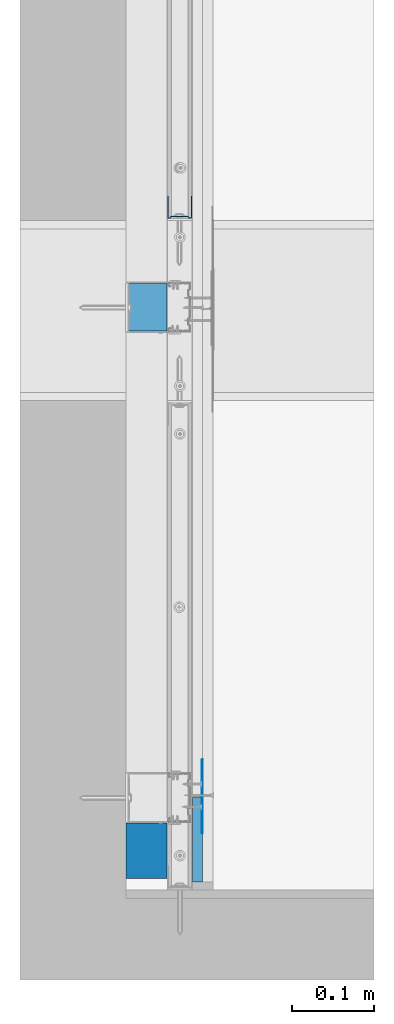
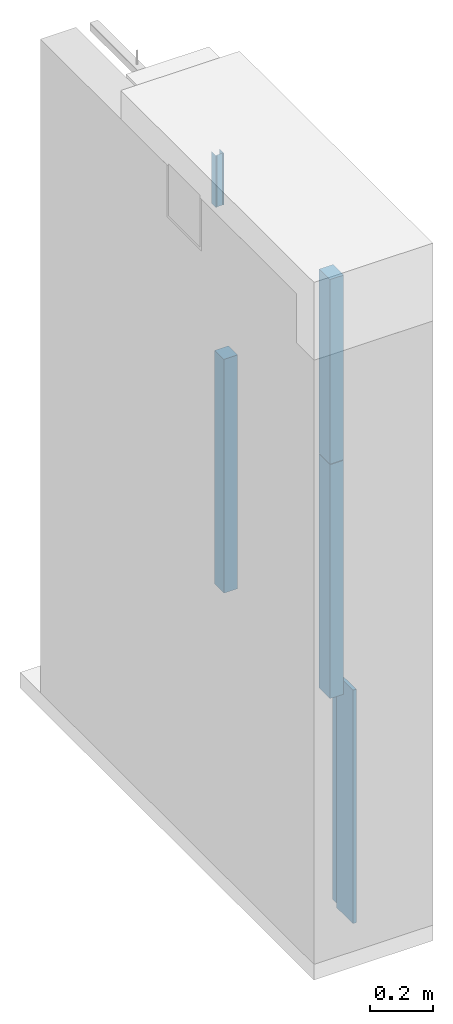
# One storey, part 7 of 67: 6 walls.
"""IFC2X3 building model written with IfcOpenShell, lengths in millimetres."""

import ifcopenshell
import ifcopenshell.guid

model = None  # the IFC model being written
_history = None  # IfcOwnerHistory: only IFC2X3 demands one
_inside = {}  # id of a spatial element -> (the spatial element, [elements in it])
_under = {}  # id of a project, library or spatial element -> (it, [spatial elements below it])
_declared = {}  # id of a project -> (the project, [libraries it declares])
_typed = {}  # id of a type object -> (the type object, [elements of that type])
_made_of = {}  # id of a material, layer set ... -> (it, [elements and type objects made of it])


def new_model(schema):
    """Start an empty IFC model of exactly this schema.

    Asked for "IFC4X3", IfcOpenShell would pick the latest addendum, in which some entities
    have other attributes; the version numbers below select the first issue.
    IFC2X3 requires an IfcOwnerHistory on every rooted entity: one is made here for all.
    """
    global model, _history
    if schema == "IFC4X3":
        model = ifcopenshell.file(schema_version=(4, 3, 0, 0))
    else:
        model = ifcopenshell.file(schema=schema)
    _inside.clear()
    _under.clear()
    _declared.clear()
    _typed.clear()
    _made_of.clear()
    _history = None
    if model.schema == "IFC2X3":
        org = make("IfcOrganization", Name="unknown")
        user = make(
            "IfcPersonAndOrganization",
            ThePerson=make("IfcPerson", FamilyName="unknown"),
            TheOrganization=org,
        )
        app = make(
            "IfcApplication",
            ApplicationDeveloper=org,
            Version="unknown",
            ApplicationFullName="unknown",
            ApplicationIdentifier="unknown",
        )
        _history = make(
            "IfcOwnerHistory",
            OwningUser=user,
            OwningApplication=app,
            ChangeAction="ADDED",
            CreationDate=0,
        )
    return model


def make(cls, **values):
    """One entity of the class cls with the attributes given. An attribute that is None is left unset."""
    return model.create_entity(
        cls, **{name: value for name, value in values.items() if value is not None}
    )


def rooted(cls, **values):
    """An entity with a GlobalId (a new one), such as an element, a storey or a relation."""
    return make(cls, GlobalId=ifcopenshell.guid.new(), OwnerHistory=_history, **values)


def si_unit(unit_type, name, prefix=None):
    """IfcSIUnit, for example si_unit("LENGTHUNIT", "METRE", prefix="MILLI")."""
    return make("IfcSIUnit", UnitType=unit_type, Prefix=prefix, Name=name)


def assignment(units):
    """IfcUnitAssignment: the units of a project."""
    return None if units is None else make("IfcUnitAssignment", Units=units)


def point(xyz):
    """IfcCartesianPoint."""
    return None if xyz is None else make("IfcCartesianPoint", Coordinates=xyz)


def direction(xyz):
    """IfcDirection."""
    return None if xyz is None else make("IfcDirection", DirectionRatios=xyz)


def frame(location, z_axis=None, x_axis=None):
    """IfcAxis2Placement3D, a coordinate frame: its origin and axes. An axis left out is left unset."""
    return make(
        "IfcAxis2Placement3D",
        Location=point(location),
        Axis=direction(z_axis),
        RefDirection=direction(x_axis),
    )


def origin_with_axes():
    """The frame at (0, 0, 0) with the z axis (0, 0, 1) and the x axis (1, 0, 0) written out."""
    return frame((0.0, 0.0, 0.0), z_axis=(0.0, 0.0, 1.0), x_axis=(1.0, 0.0, 0.0))


def place(relative_to, where):
    """IfcLocalPlacement: puts the frame where relative to a parent placement (None: the world)."""
    return make(
        "IfcLocalPlacement", PlacementRelTo=relative_to, RelativePlacement=where
    )


def context(
    kind, dimensions, precision=None, world=None, true_north=None, identifier=None
):
    """IfcGeometricRepresentationContext, for example the 3D "Model" context."""
    return make(
        "IfcGeometricRepresentationContext",
        ContextIdentifier=identifier,
        ContextType=kind,
        CoordinateSpaceDimension=dimensions,
        Precision=precision,
        WorldCoordinateSystem=world,
        TrueNorth=true_north,
    )


def subcontext(parent, identifier, kind, view, scale=None):
    """IfcGeometricRepresentationSubContext, for example "Body" below "Model"."""
    return make(
        "IfcGeometricRepresentationSubContext",
        ContextIdentifier=identifier,
        ContextType=kind,
        ParentContext=parent,
        TargetScale=scale,
        TargetView=view,
    )


def project(units=None, contexts=None):
    """IfcProject with its units and contexts."""
    return rooted(
        "IfcProject",
        Name="project",
        RepresentationContexts=contexts,
        UnitsInContext=assignment(units),
    )


def spatial(cls, under=None, at=None, **own):
    """A site, building, storey or space (cls), placed at a placement, below another one or the project."""
    s = rooted(cls, ObjectPlacement=at, **own)
    if under is not None:
        _under.setdefault(under.id(), (under, []))[1].append(s)
    return s


def faces_of(points, faces, orient=None, outer=None):
    """IfcFace entities. A face is a list of loops; a loop is a list of indices into points, from 0.

    orient and outer hold one flag for each loop. By default every Orientation is true, the
    first loop of a face is its IfcFaceOuterBound and the others are IfcFaceBound.
    """
    made = []
    for i, loops in enumerate(faces):
        bounds = []
        for j, loop in enumerate(loops):
            is_outer = j == 0 if outer is None else outer[i][j]
            bounds.append(
                make(
                    "IfcFaceOuterBound" if is_outer else "IfcFaceBound",
                    Bound=make("IfcPolyLoop", Polygon=[points[k] for k in loop]),
                    Orientation=True if orient is None else orient[i][j],
                )
            )
        made.append(make("IfcFace", Bounds=bounds))
    return made


def faceted_brep(points, faces, orient=None, outer=None, voids=None):
    """IfcFacetedBrep: a solid bounded by flat faces; with voids (closed shells), ...WithVoids."""
    shared = [point(p) for p in points]
    hull = make("IfcClosedShell", CfsFaces=faces_of(shared, faces, orient, outer))
    if voids is None:
        return make("IfcFacetedBrep", Outer=hull)
    return make(
        "IfcFacetedBrepWithVoids",
        Outer=hull,
        Voids=[
            make(cls, CfsFaces=faces_of(shared, fs, o, b)) for cls, fs, o, b in voids
        ],
    )


def shape(context_of_items, identifier, shape_type, items):
    """IfcShapeRepresentation: the items that make up one representation, for example the "Body"."""
    return make(
        "IfcShapeRepresentation",
        ContextOfItems=context_of_items,
        RepresentationIdentifier=identifier,
        RepresentationType=shape_type,
        Items=items,
    )


def material(Name=None, Category=None):
    """IfcMaterial."""
    return make("IfcMaterial", Name=Name, Category=Category)


def made_of(thing, what):
    """Note that an element or type object is made of a material, layer set ...; save() writes the relation."""
    if what is not None:
        _made_of.setdefault(what.id(), (what, []))[1].append(thing)
    return thing


def type_object(cls, material=None, **own):
    """A type object (cls), such as IfcWallType, which elements share."""
    return made_of(rooted(cls, **own), material)


def element(
    cls,
    number,
    at=None,
    inside=None,
    cuts=None,
    type_object=None,
    material=None,
    context=None,
    identifier="Body",
    shape_type=None,
    held_by="IfcProductDefinitionShape",
    body=None,
    shapes=None,
    **own,
):
    """One element of the class cls, such as IfcWall. Its Tag is "e" and its number.

    at: its placement. inside: the storey or other place that contains it. cuts: it is an
    opening in that element (IfcRelVoidsElement). A single representation is given by context,
    identifier, shape_type and body (its items); several are given by shapes. held_by: the class
    of the entity that holds the representations. save() writes the other relations.
    """
    e = rooted(cls, Tag="e%d" % number, ObjectPlacement=at, **own)
    if body is not None:
        shapes = [shape(context, identifier, shape_type, body)]
    if shapes is not None:
        e.Representation = make(held_by, Representations=shapes)
    if inside is not None:
        _inside.setdefault(inside.id(), (inside, []))[1].append(e)
    if cuts is not None:
        rooted(
            "IfcRelVoidsElement", RelatingBuildingElement=cuts, RelatedOpeningElement=e
        )
    if type_object is not None:
        _typed.setdefault(type_object.id(), (type_object, []))[1].append(e)
    return made_of(e, material)


def aggregate(whole, parts):
    """IfcRelAggregates: a whole, such as a stair, and the parts it consists of."""
    return rooted("IfcRelAggregates", RelatingObject=whole, RelatedObjects=parts)


def save(model, path):
    """Write the relations noted so far, then the file.

    IfcRelAggregates (storeys below a building ...), IfcRelContainedInSpatialStructure (elements
    in a storey), IfcRelDefinesByType, IfcRelAssociatesMaterial and IfcRelDeclares: one each for
    every whole, place, type object, material and project.
    """
    for whole, parts in _under.values():
        aggregate(whole, parts)
    for where, things in _inside.values():
        rooted(
            "IfcRelContainedInSpatialStructure",
            RelatedElements=things,
            RelatingStructure=where,
        )
    for kind, things in _typed.values():
        rooted("IfcRelDefinesByType", RelatedObjects=things, RelatingType=kind)
    for what, things in _made_of.values():
        rooted("IfcRelAssociatesMaterial", RelatedObjects=things, RelatingMaterial=what)
    for by, libraries in _declared.values():
        rooted("IfcRelDeclares", RelatingContext=by, RelatedDefinitions=libraries)
    model.write(path)


model = new_model("IFC2X3")

# Units and contexts
model_context = context("Model", 3, world=origin_with_axes())
body_context = subcontext(model_context, "Body", "Model", "MODEL_VIEW")
ifc_project = project(units=[si_unit("LENGTHUNIT", "METRE", prefix="MILLI"), si_unit("AREAUNIT", "SQUARE_METRE"), si_unit("VOLUMEUNIT", "CUBIC_METRE")], contexts=[model_context])

# Site, building, storey
site_placement = place(None, frame((2152.14102611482, 674.9749105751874, 57.61556563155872), z_axis=(0.0, 0.0, 1.0), x_axis=(-1.1102230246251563e-16, 1.0, 0.0)))
site = spatial("IfcSite", under=ifc_project, at=site_placement, Name="Default Site", CompositionType="ELEMENT")
building_placement = place(site_placement, origin_with_axes())
building = spatial("IfcBuilding", under=site, at=building_placement, Name="Default Building", CompositionType="ELEMENT")
storey_placement = place(building_placement, origin_with_axes())
storey = spatial("IfcBuildingStorey", under=building, at=storey_placement, Name="Default Building Storey", CompositionType="ELEMENT", Elevation=57.61556563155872)

# Walls
ifc_material_1 = material(Name="Undefined5")
wall_type_1 = type_object("IfcWallType", Name="Masa szpachlowa konstrukcyjna RIGIPS#2", PredefinedType="NOTDEFINED")
wall_1_placement = place(storey_placement, frame((2976.88886506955, 5319.236799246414, 261.59003980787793), z_axis=(0.0, 0.0, 1.0), x_axis=(1.0, 0.0, 0.0)))
element("IfcWall", 1, at=wall_1_placement, inside=storey, type_object=wall_type_1, material=ifc_material_1, Name="Masa szpachlowa konstrukcyjna RIGIPS", context=body_context, shape_type="Brep", body=[
    faceted_brep([(-737.5571131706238, -3387.974739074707, 600.7999777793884), (-737.6772165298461, -3388.2646560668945, 600.7999777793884), (-737.8411889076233, -3388.532400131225, 600.7999777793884), (-738.0449771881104, -3388.770818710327, 600.7999777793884), (-738.283634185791, -3388.9746665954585, 600.7999777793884), (-738.5512590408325, -3389.138698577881, 600.7999777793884), (-738.84117603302, -3389.258861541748, 600.7999777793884), (-739.14635181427, -3389.3320560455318, 600.7999777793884), (-739.459216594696, -3389.3566131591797, 600.7999777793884), (-782.4591994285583, -3389.3566131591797, 600.7999777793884), (-782.4591994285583, -3390.556812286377, 600.7999777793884), (-691.4592385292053, -3390.556812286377, 600.7999777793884), (-692.459225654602, -3389.3566131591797, 600.7999777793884), (-735.4592084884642, -3389.3566131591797, 600.7999777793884), (-735.7720732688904, -3389.3320560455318, 600.7999777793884), (-736.0772490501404, -3389.258861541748, 600.7999777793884), (-736.3672256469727, -3389.138698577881, 600.7999777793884), (-736.6347908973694, -3388.9746665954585, 600.7999777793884), (-736.87344789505, -3388.770818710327, 600.7999777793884), (-737.0772361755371, -3388.532400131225, 600.7999777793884), (-737.2412085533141, -3388.2646560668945, 600.7999777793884), (-737.3613119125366, -3387.974739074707, 600.7999777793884), (-737.4345660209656, -3387.669563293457, 600.7999777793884), (-737.4592423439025, -3387.356758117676, 600.7999777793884), (-737.4838590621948, -3387.669563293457, 600.7999777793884), (-782.4591994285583, -3390.556812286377, -249.20158088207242), (-782.4591994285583, -3389.3566131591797, -249.20158088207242), (-739.459216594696, -3389.3566131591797, -249.20158088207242), (-739.14635181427, -3389.3320560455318, -249.20158088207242), (-738.84117603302, -3389.258861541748, -249.20158088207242), (-738.5512590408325, -3389.138698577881, -249.20158088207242), (-738.283634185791, -3388.9746665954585, -249.20158088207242), (-738.0449771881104, -3388.770818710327, -249.20158088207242), (-737.8411889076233, -3388.532400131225, -249.20158088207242), (-737.6772165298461, -3388.2646560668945, -249.20158088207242), (-737.5571131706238, -3387.974739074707, -249.20158088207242), (-737.4838590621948, -3387.669563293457, -249.20158088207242), (-737.4592423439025, -3387.356758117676, -249.20158088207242), (-737.4345660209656, -3387.669563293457, -249.20158088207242), (-737.3613119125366, -3387.974739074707, -249.20158088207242), (-737.2412085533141, -3388.2646560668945, -249.20158088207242), (-737.0772361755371, -3388.532400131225, -249.20158088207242), (-736.87344789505, -3388.770818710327, -249.20158088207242), (-736.6347908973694, -3388.9746665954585, -249.20158088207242), (-736.3672256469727, -3389.138698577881, -249.20158088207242), (-736.0772490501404, -3389.258861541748, -249.20158088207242), (-735.7720732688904, -3389.3320560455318, -249.20158088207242), (-735.4592084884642, -3389.3566131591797, -249.20158088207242), (-692.459225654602, -3389.3566131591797, -249.20158088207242), (-691.4592385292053, -3390.556812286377, -249.20158088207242)], [[[0, 1, 2, 3, 4, 5, 6, 7, 8, 9, 10, 11, 12, 13, 14, 15, 16, 17, 18, 19, 20, 21, 22, 23, 24]], [[25, 26, 27, 28, 29, 30, 31, 32, 33, 34, 35, 36, 37, 38, 39, 40, 41, 42, 43, 44, 45, 46, 47, 48, 49]], [[47, 13, 12, 48]], [[46, 45, 15, 14]], [[14, 13, 47, 46]], [[15, 45, 44, 16]], [[43, 42, 18, 17]], [[17, 16, 44, 43]], [[41, 40, 20, 19]], [[19, 18, 42, 41]], [[20, 40, 39, 21]], [[38, 37, 23, 22]], [[22, 21, 39, 38]], [[36, 35, 0, 24]], [[24, 23, 37, 36]], [[0, 35, 34, 1]], [[33, 32, 3, 2]], [[2, 1, 34, 33]], [[31, 30, 5, 4]], [[4, 3, 32, 31]], [[5, 30, 29, 6]], [[28, 27, 8, 7]], [[7, 6, 29, 28]], [[26, 9, 8, 27]], [[25, 10, 9, 26]], [[49, 11, 10, 25]], [[48, 12, 11, 49]]]),
])
ifc_material_2 = material(Name="Undefined7")
wall_type_2 = type_object("IfcWallType", Name="Płyta gipsowo-kartonowa RIGIPS PRO (4PRO™)#1", PredefinedType="NOTDEFINED")
wall_2_placement = place(storey_placement, frame((1039.3985295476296, 1941.1800775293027, 1162.3900398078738), z_axis=(0.0, 0.0, 1.0), x_axis=(1.0, 0.0, 0.0)))
element("IfcWall", 2, at=wall_2_placement, inside=storey, type_object=wall_type_2, material=ifc_material_2, Name="Płyta gipsowo-kartonowa RIGIPS PRO (4PRO™)", context=body_context, shape_type="Brep", body=[
    faceted_brep([(1095.6309516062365, -12.500000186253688, -249.99999999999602), (1095.6309516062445, -0.0019148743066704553, -250.0), (1095.6309516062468, -0.0019148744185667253, -1150.0015258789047), (1095.6309516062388, -12.500000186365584, -1150.0015258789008), (1198.0000009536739, -11.500000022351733, -1150.001525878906), (1198.2588043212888, -11.465925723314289, -1150.001525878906), (1198.2588043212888, -11.465925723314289, -250.0), (1198.0000009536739, -11.500000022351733, -250.0), (1199.0000476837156, 0.0, -250.0), (1199.0000476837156, 0.0, -1150.001525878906), (1198.49996471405, -11.366025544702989, -1150.001525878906), (1198.7071504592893, -11.207106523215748, -1150.001525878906), (1198.7071504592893, -11.207106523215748, -250.0), (1198.49996471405, -11.366025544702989, -250.0), (1158.000039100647, -11.500000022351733, -1150.001525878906), (1158.000039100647, -11.500000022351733, -250.0), (1198.9659538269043, -10.758819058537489, -1150.001525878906), (1198.9659538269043, -10.758819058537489, -250.0), (1198.8660564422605, -10.999999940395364, -250.0), (1198.8660564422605, -10.999999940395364, -1150.001525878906), (1199.0000476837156, -10.49999985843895, -250.0), (1199.0000476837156, -10.49999985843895, -1150.001525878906), (1153.9999713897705, -12.50000018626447, -250.0), (1153.9999713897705, -12.50000018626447, -1150.001525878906)], [[[0, 1, 2, 3]], [[4, 5, 6, 7]], [[1, 8, 9, 2]], [[10, 11, 12, 13]], [[14, 4, 7, 15]], [[16, 17, 18, 19]], [[19, 18, 12, 11]], [[9, 8, 20, 21]], [[22, 15, 7, 6, 13, 12, 18, 17, 20, 8, 1, 0]], [[0, 3, 23, 22]], [[5, 10, 13, 6]], [[10, 5, 4, 14, 23, 3, 2, 9, 21, 16, 19, 11]], [[23, 14, 15, 22]], [[21, 20, 17, 16]]]),
])
ifc_material_3 = material(Name="Undefined9")
wall_type_3 = type_object("IfcWallType", Name="Profil RIGIPS UD 30 GypSerra®/Ultrastil®#5", PredefinedType="NOTDEFINED")
wall_3_placement = place(storey_placement, frame((2833.0655843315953, 472.8602059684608, 5216.558081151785), z_axis=(1.0, 6.860037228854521e-13, 6.156186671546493e-14), x_axis=(6.156186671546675e-14, -2.6462982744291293e-15, -1.0)))
element("IfcWall", 3, at=wall_3_placement, inside=storey, type_object=wall_type_3, material=ifc_material_3, Name="Profil RIGIPS UD 30 GypSerra®/Ultrastil®", context=body_context, shape_type="Brep", body=[
    faceted_brep([(2926.1740592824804, 1469.9159860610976, 140.9749984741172), (2926.1740592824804, 1469.3660736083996, 140.97499847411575), (2926.174059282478, 1469.3660736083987, 114.77500200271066), (2926.174059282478, 1469.3758487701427, 114.64985460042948), (2926.174059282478, 1469.405174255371, 114.52778428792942), (2926.174059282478, 1469.4532155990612, 114.41180855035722), (2926.174059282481, 1469.5187807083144, 114.30477350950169), (2926.174059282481, 1469.6003198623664, 114.20931667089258), (2926.1740592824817, 1469.6958065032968, 114.12778496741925), (2926.1740592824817, 1469.8028564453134, 114.06219750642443), (2926.1740592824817, 1469.9188470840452, 114.01415616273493), (2926.1740592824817, 1470.0409173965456, 113.98485302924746), (2926.1740592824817, 1470.1660871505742, 113.97500336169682), (2926.1740592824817, 1472.015976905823, 113.97500336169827), (2926.1740592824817, 1472.163558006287, 113.98871988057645), (2926.1740592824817, 1472.3060131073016, 114.02940750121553), (2926.1740592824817, 1472.4385738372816, 114.09565806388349), (2926.174059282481, 1472.5565910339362, 114.18521404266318), (2926.1740592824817, 1472.6560115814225, 114.29499834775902), (2926.1740592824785, 1473.6760854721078, 115.65499752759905), (2926.1740592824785, 1473.7755060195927, 115.76478183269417), (2926.1740592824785, 1473.8935232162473, 115.85433781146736), (2926.1740592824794, 1474.026083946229, 115.92059582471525), (2926.1740592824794, 1474.1685390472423, 115.96128344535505), (2926.1740592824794, 1474.3160009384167, 115.97499996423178), (2926.1740592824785, 1493.6159849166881, 115.97499996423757), (2926.1740592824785, 1493.7635660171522, 115.96128344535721), (2926.1740592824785, 1493.9060211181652, 115.9205958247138), (2926.1740592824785, 1494.038581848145, 115.85433781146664), (2926.1740592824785, 1494.1565990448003, 115.76478183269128), (2926.1740592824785, 1494.2560195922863, 115.65499752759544), (2926.1740592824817, 1495.2759742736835, 114.29499834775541), (2926.1740592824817, 1495.3755140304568, 114.18521404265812), (2926.1740592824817, 1495.4935312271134, 114.09565806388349), (2926.1740592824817, 1495.626091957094, 114.02940750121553), (2926.1740592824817, 1495.7685470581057, 113.98871988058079), (2926.1740592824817, 1495.9160089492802, 113.97500336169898), (2926.1740592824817, 1497.7660179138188, 113.97500336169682), (2926.1740592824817, 1497.8911876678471, 113.98485302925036), (2926.1740592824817, 1498.0132579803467, 114.01415616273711), (2926.1740592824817, 1498.1292486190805, 114.06219750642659), (2926.1740592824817, 1498.2362985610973, 114.12778496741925), (2926.1740592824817, 1498.3316659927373, 114.20931667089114), (2926.1740592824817, 1498.4132051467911, 114.3047735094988), (2926.1740592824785, 1498.478889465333, 114.41180855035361), (2926.1740592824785, 1498.5269308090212, 114.52778428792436), (2926.1740592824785, 1498.556137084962, 114.64985460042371), (2926.174059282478, 1498.566031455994, 114.77500200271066), (2926.174059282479, 1498.5660314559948, 140.97499847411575), (2926.174059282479, 1498.0159997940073, 140.97499847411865), (2926.174059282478, 1498.0159997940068, 114.77500200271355), (2926.1740592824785, 1498.0129003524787, 114.7358939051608), (2926.1740592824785, 1498.003840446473, 114.69774693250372), (2926.1740592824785, 1497.98882007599, 114.6614998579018), (2926.1740592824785, 1497.9683160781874, 114.62805420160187), (2926.1740592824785, 1497.9428052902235, 114.59822207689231), (2926.1740592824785, 1497.9130029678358, 114.57274854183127), (2926.1740592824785, 1497.8795051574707, 114.55225199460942), (2926.1740592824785, 1497.8432655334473, 114.53723907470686), (2926.1740592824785, 1497.8051185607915, 114.52807486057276), (2926.1740592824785, 1497.7660179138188, 114.5249977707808), (2926.1740592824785, 1495.9160089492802, 114.52499777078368), (2926.1740592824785, 1495.869874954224, 114.5292893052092), (2926.1740592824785, 1495.8254098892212, 114.5419999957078), (2926.1740592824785, 1495.7840442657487, 114.56270515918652), (2926.1740592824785, 1495.7470893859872, 114.5906895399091), (2926.1740592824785, 1495.715975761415, 114.62499946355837), (2926.1740592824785, 1494.6960210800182, 115.98499864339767), (2926.1740592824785, 1494.5281744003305, 116.17025732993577), (2926.1740592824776, 1494.328975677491, 116.32138490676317), (2926.1740592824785, 1494.1053390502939, 116.43319576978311), (2926.1740592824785, 1493.8650131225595, 116.50185286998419), (2926.1740592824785, 1493.6159849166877, 116.52500182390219), (2926.174059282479, 1474.3160009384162, 116.52500182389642), (2926.174059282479, 1474.0670919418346, 116.50185286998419), (2926.174059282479, 1473.8266468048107, 116.43319576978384), (2926.174059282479, 1473.6031293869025, 116.32138490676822), (2926.174059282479, 1473.4039306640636, 116.17025732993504), (2926.1740592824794, 1473.2360839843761, 115.98499864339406), (2926.174059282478, 1472.21601009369, 114.6249994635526), (2926.174059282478, 1472.1848964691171, 114.59068953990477), (2926.174059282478, 1472.1480607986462, 114.56270515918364), (2926.174059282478, 1472.1066951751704, 114.54199999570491), (2926.174059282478, 1472.062110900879, 114.52928930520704), (2926.174059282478, 1472.0159769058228, 114.52499777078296), (2926.174059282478, 1470.166087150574, 114.5249977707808), (2926.174059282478, 1470.1268672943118, 114.52807486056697), (2926.174059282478, 1470.0887203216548, 114.53723907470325), (2926.174059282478, 1470.0524806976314, 114.55225199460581), (2926.174059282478, 1470.0191020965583, 114.57274854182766), (2926.174059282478, 1469.9892997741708, 114.59822207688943), (2926.174059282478, 1469.9637889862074, 114.62805420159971), (2926.174059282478, 1469.9432849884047, 114.66149985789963), (2926.174059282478, 1469.9282646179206, 114.697746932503), (2926.174059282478, 1469.9190855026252, 114.73589390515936), (2926.174059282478, 1469.9159860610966, 114.77500200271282), (2726.1740592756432, 1469.3660736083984, 114.77500200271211), (2726.174059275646, 1469.3660736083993, 140.9749984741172), (2726.174059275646, 1469.915986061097, 140.9749984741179), (2726.1740592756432, 1469.9159860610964, 114.77500200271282), (2726.1740592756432, 1469.9190855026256, 114.73589390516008), (2726.1740592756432, 1469.9282646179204, 114.697746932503), (2726.1740592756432, 1469.9432849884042, 114.66149985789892), (2726.1740592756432, 1469.9637889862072, 114.62805420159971), (2726.1740592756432, 1469.9892997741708, 114.59822207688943), (2726.1740592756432, 1470.0191020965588, 114.57274854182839), (2726.1740592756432, 1470.052480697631, 114.55225199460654), (2726.1740592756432, 1470.0887203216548, 114.53723907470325), (2726.1740592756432, 1470.126867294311, 114.52807486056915), (2726.1740592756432, 1470.1660871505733, 114.52499777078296), (2726.1740592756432, 1472.015976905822, 114.52499777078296), (2726.1740592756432, 1472.0621109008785, 114.52928930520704), (2726.1740592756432, 1472.1066951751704, 114.54199999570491), (2726.1740592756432, 1472.1480607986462, 114.56270515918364), (2726.1740592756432, 1472.1848964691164, 114.59068953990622), (2726.1740592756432, 1472.2160100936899, 114.62499946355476), (2726.1740592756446, 1473.236083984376, 115.98499864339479), (2726.174059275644, 1473.403930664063, 116.17025732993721), (2726.1740592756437, 1473.6031293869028, 116.32138490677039), (2726.1740592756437, 1473.8266468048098, 116.43319576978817), (2726.1740592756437, 1474.0670919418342, 116.5018528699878), (2726.1740592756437, 1474.3160009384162, 116.52500182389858), (2726.174059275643, 1493.6159849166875, 116.52500182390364), (2726.174059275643, 1493.8650131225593, 116.50185286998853), (2726.174059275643, 1494.1053390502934, 116.43319576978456), (2726.1740592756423, 1494.328975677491, 116.32138490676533), (2726.1740592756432, 1494.5281744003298, 116.17025732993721), (2726.174059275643, 1494.6960210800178, 115.98499864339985), (2726.174059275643, 1495.7159757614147, 114.62499946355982), (2726.174059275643, 1495.747089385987, 114.59068953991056), (2726.174059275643, 1495.784044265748, 114.56270515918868), (2726.174059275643, 1495.8254098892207, 114.54199999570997), (2726.174059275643, 1495.8698749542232, 114.52928930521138), (2726.174059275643, 1495.9160089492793, 114.5249977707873), (2726.174059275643, 1497.766017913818, 114.52499777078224), (2726.174059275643, 1497.8051185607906, 114.5280748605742), (2726.174059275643, 1497.8432655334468, 114.53723907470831), (2726.174059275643, 1497.8795051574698, 114.55225199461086), (2726.174059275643, 1497.9130029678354, 114.57274854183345), (2726.174059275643, 1497.9428052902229, 114.59822207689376), (2726.174059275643, 1497.9683160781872, 114.62805420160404), (2726.174059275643, 1497.9888200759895, 114.66149985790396), (2726.174059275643, 1498.0038404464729, 114.69774693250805), (2726.174059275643, 1498.0129003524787, 114.73589390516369), (2726.174059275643, 1498.015999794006, 114.77500200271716), (2726.1740592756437, 1498.015999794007, 140.97499847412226), (2726.1740592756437, 1498.5660314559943, 140.9749984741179), (2726.174059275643, 1498.5660314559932, 114.77500200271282), (2726.174059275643, 1498.5561370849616, 114.64985460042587), (2726.174059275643, 1498.5269308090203, 114.52778428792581), (2726.174059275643, 1498.4788894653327, 114.41180855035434), (2726.174059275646, 1498.4132051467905, 114.3047735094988), (2726.174059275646, 1498.3316659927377, 114.20931667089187), (2726.174059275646, 1498.2362985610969, 114.1277849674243), (2726.174059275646, 1498.12924861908, 114.0621975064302), (2726.1740592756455, 1498.013257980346, 114.01415616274), (2726.1740592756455, 1497.8911876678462, 113.98485302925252), (2726.1740592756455, 1497.7660179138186, 113.97500336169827), (2726.1740592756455, 1495.91600894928, 113.97500336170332), (2726.1740592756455, 1495.7685470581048, 113.98871988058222), (2726.1740592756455, 1495.6260919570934, 114.02940750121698), (2726.174059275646, 1495.4935312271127, 114.09565806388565), (2726.174059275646, 1495.375514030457, 114.18521404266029), (2726.174059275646, 1495.2759742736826, 114.29499834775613), (2726.174059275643, 1494.2560195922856, 115.65499752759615), (2726.174059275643, 1494.1565990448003, 115.76478183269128), (2726.174059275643, 1494.038581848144, 115.85433781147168), (2726.174059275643, 1493.9060211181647, 115.92059582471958), (2726.174059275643, 1493.7635660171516, 115.96128344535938), (2726.174059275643, 1493.6159849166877, 115.9749999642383), (2726.1740592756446, 1474.3160009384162, 115.97499996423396), (2726.1740592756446, 1474.1685390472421, 115.96128344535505), (2726.1740592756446, 1474.0260839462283, 115.9205958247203), (2726.1740592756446, 1473.8935232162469, 115.85433781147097), (2726.1740592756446, 1473.775506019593, 115.76478183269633), (2726.1740592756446, 1473.6760854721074, 115.65499752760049), (2726.174059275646, 1472.6560115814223, 114.29499834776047), (2726.174059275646, 1472.556591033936, 114.18521404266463), (2726.174059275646, 1472.4385738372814, 114.09565806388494), (2726.174059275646, 1472.3060131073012, 114.02940750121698), (2726.1740592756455, 1472.1635580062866, 113.98871988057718), (2726.1740592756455, 1472.015976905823, 113.9750033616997), (2726.1740592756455, 1470.166087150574, 113.97500336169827), (2726.1740592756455, 1470.0409173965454, 113.98485302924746), (2726.1740592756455, 1469.9188470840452, 114.01415616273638), (2726.174059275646, 1469.802856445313, 114.06219750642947), (2726.174059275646, 1469.6958065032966, 114.12778496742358), (2726.174059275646, 1469.6003198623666, 114.20931667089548), (2726.174059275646, 1469.5187807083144, 114.30477350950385), (2726.1740592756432, 1469.4532155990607, 114.41180855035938), (2726.1740592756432, 1469.4051742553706, 114.52778428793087), (2726.1740592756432, 1469.3758487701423, 114.64985460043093)], [[[0, 1, 2, 3, 4, 5, 6, 7, 8, 9, 10, 11, 12, 13, 14, 15, 16, 17, 18, 19, 20, 21, 22, 23, 24, 25, 26, 27, 28, 29, 30, 31, 32, 33, 34, 35, 36, 37, 38, 39, 40, 41, 42, 43, 44, 45, 46, 47, 48, 49, 50, 51, 52, 53, 54, 55, 56, 57, 58, 59, 60, 61, 62, 63, 64, 65, 66, 67, 68, 69, 70, 71, 72, 73, 74, 75, 76, 77, 78, 79, 80, 81, 82, 83, 84, 85, 86, 87, 88, 89, 90, 91, 92, 93, 94, 95]], [[96, 97, 98, 99, 100, 101, 102, 103, 104, 105, 106, 107, 108, 109, 110, 111, 112, 113, 114, 115, 116, 117, 118, 119, 120, 121, 122, 123, 124, 125, 126, 127, 128, 129, 130, 131, 132, 133, 134, 135, 136, 137, 138, 139, 140, 141, 142, 143, 144, 145, 146, 147, 148, 149, 150, 151, 152, 153, 154, 155, 156, 157, 158, 159, 160, 161, 162, 163, 164, 165, 166, 167, 168, 169, 170, 171, 172, 173, 174, 175, 176, 177, 178, 179, 180, 181, 182, 183, 184, 185, 186, 187, 188, 189, 190, 191]], [[23, 171, 170, 24]], [[22, 172, 171, 23]], [[175, 174, 20, 19]], [[172, 22, 21, 173]], [[20, 174, 173, 21]], [[24, 170, 169, 25]], [[29, 165, 164, 30]], [[165, 29, 28, 166]], [[27, 167, 166, 28]], [[169, 168, 26, 25]], [[26, 168, 167, 27]], [[30, 164, 163, 31]], [[35, 159, 158, 36]], [[34, 160, 159, 35]], [[33, 32, 162, 161]], [[161, 160, 34, 33]], [[163, 162, 32, 31]], [[36, 158, 157, 37]], [[46, 45, 149, 148]], [[148, 147, 47, 46]], [[44, 150, 149, 45]], [[43, 42, 152, 151]], [[151, 150, 44, 43]], [[41, 40, 154, 153]], [[153, 152, 42, 41]], [[39, 155, 154, 40]], [[38, 37, 157, 156]], [[156, 155, 39, 38]], [[47, 147, 146, 48]], [[48, 146, 145, 49]], [[49, 145, 144, 50]], [[134, 60, 59, 135]], [[58, 136, 135, 59]], [[57, 137, 136, 58]], [[137, 57, 56, 138]], [[55, 139, 138, 56]], [[139, 55, 54, 140]], [[53, 141, 140, 54]], [[52, 142, 141, 53]], [[142, 52, 51, 143]], [[50, 144, 143, 51]], [[60, 134, 133, 61]], [[65, 129, 128, 66]], [[129, 65, 64, 130]], [[63, 131, 130, 64]], [[133, 132, 62, 61]], [[62, 132, 131, 63]], [[66, 128, 127, 67]], [[71, 123, 122, 72]], [[70, 69, 125, 124]], [[124, 123, 71, 70]], [[68, 126, 125, 69]], [[127, 126, 68, 67]], [[72, 122, 121, 73]], [[77, 117, 116, 78]], [[76, 118, 117, 77]], [[75, 74, 120, 119]], [[119, 118, 76, 75]], [[121, 120, 74, 73]], [[78, 116, 115, 79]], [[83, 111, 110, 84]], [[82, 112, 111, 83]], [[115, 114, 80, 79]], [[112, 82, 81, 113]], [[80, 114, 113, 81]], [[84, 110, 109, 85]], [[99, 95, 94, 100]], [[93, 101, 100, 94]], [[92, 102, 101, 93]], [[102, 92, 91, 103]], [[90, 104, 103, 91]], [[104, 90, 89, 105]], [[88, 106, 105, 89]], [[87, 107, 106, 88]], [[107, 87, 86, 108]], [[85, 109, 108, 86]], [[95, 99, 98, 0]], [[0, 98, 97, 1]], [[1, 97, 96, 2]], [[11, 10, 184, 183]], [[183, 182, 12, 11]], [[9, 185, 184, 10]], [[6, 5, 189, 188]], [[7, 6, 188, 187]], [[8, 7, 187, 186]], [[186, 185, 9, 8]], [[4, 190, 189, 5]], [[3, 2, 96, 191]], [[191, 190, 4, 3]], [[12, 182, 181, 13]], [[17, 177, 176, 18]], [[16, 15, 179, 178]], [[178, 177, 17, 16]], [[14, 180, 179, 15]], [[181, 180, 14, 13]], [[18, 176, 175, 19]]]),
])
ifc_material_4 = material(Name="Default")
wall_type_4 = type_object("IfcWallType", Name="Wypełnienie z wełny mineralnej szklanej ISOVER#2", PredefinedType="NOTDEFINED")
wall_4_placement = place(storey_placement, frame((2641.0623067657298, 5350.424146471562, 895.3595813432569), z_axis=(0.0, 0.0, 1.0), x_axis=(-1.0, 4.718447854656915e-16, 0.0)))
element("IfcWall", 4, at=wall_4_placement, inside=storey, type_object=wall_type_4, material=ifc_material_4, Name="Wypełnienie z wełny mineralnej szklanej ISOVER", context=body_context, shape_type="Brep", body=[
    faceted_brep([(-168.124780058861, 3328.2832634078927, 10.28402615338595), (-168.124780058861, 3328.2832634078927, 911.5436077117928), (-225.97478152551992, 3328.2832634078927, 911.5436077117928), (-225.97478152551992, 3328.2832634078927, 10.28402615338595), (-168.124780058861, 3378.283168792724, 10.28402615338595), (-168.124780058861, 3378.283168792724, 911.5436077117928), (-225.97478152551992, 3378.283168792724, 911.5436077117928), (-225.97478152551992, 3378.283168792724, 10.28402615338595)], [[[0, 1, 2, 3]], [[0, 4, 5, 1]], [[6, 5, 4, 7]], [[7, 4, 0, 3]]]),
    faceted_brep([(-225.97478152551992, 3328.2832634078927, 911.5436077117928), (-225.97478152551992, 3378.283168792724, 911.5436077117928), (-225.97478152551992, 3378.283168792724, 10.28402615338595), (-225.97478152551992, 3328.2832634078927, 10.28402615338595), (-168.124780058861, 3328.2832634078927, 911.5436077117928), (-168.124780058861, 3378.283168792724, 911.5436077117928)], [[[0, 1, 2, 3]], [[1, 0, 4, 5]]]),
])
ifc_material_5 = material(Name="Undefined")
wall_type_5 = type_object("IfcWallType", Name="Wypełnienie z wełny mineralnej szklanej ISOVER#7", PredefinedType="NOTDEFINED")
wall_5_placement = place(storey_placement, frame((1971.1842541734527, 5350.424146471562, 895.3595813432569), z_axis=(0.0, 0.0, 1.0), x_axis=(-1.0, 4.718447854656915e-16, 0.0)))
element("IfcWall", 5, at=wall_5_placement, inside=storey, type_object=wall_type_5, material=ifc_material_5, Name="Wypełnienie z wełny mineralnej szklanej ISOVER", context=body_context, shape_type="Brep", body=[
    faceted_brep([(-168.12478005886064, 3328.283263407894, 10.28402615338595), (-168.12478005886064, 3328.283263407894, 911.5436077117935), (-236.00283265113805, 3328.283263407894, 911.5436077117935), (-236.00283265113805, 3328.283263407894, 10.28402615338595), (-168.12478005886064, 3378.2831687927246, 10.28402615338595), (-168.12478005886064, 3378.2831687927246, 911.5436077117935), (-236.00283265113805, 3378.283168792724, 911.5436077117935), (-236.00283265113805, 3378.283168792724, 10.28402615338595)], [[[0, 1, 2, 3]], [[0, 4, 5, 1]], [[6, 5, 4, 7]], [[7, 4, 0, 3]]]),
    faceted_brep([(-236.00283265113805, 3328.283263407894, 911.5436077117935), (-236.00283265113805, 3378.283168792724, 911.5436077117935), (-236.00283265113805, 3378.283168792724, 10.28402615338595), (-236.00283265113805, 3328.283263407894, 10.28402615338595), (-168.12478005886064, 3328.283263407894, 911.5436077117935), (-168.12478005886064, 3378.2831687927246, 911.5436077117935)], [[[0, 1, 2, 3]], [[1, 0, 4, 5]]]),
])
wall_type_6 = type_object("IfcWallType", Name="Wypełnienie z wełny mineralnej szklanej ISOVER#9", PredefinedType="NOTDEFINED")
wall_6_placement = place(storey_placement, frame((1971.1842541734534, 5350.4241464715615, 1801.00318943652), z_axis=(0.0, 0.0, 1.0), x_axis=(-1.0, 4.718447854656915e-16, 0.0)))
element("IfcWall", 6, at=wall_6_placement, inside=storey, type_object=wall_type_6, material=ifc_material_5, Name="Wypełnienie z wełny mineralnej szklanej ISOVER", context=body_context, shape_type="Brep", body=[
    faceted_brep([(-168.12478005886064, 3328.283263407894, 7.899999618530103), (-168.12478005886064, 3328.283263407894, 719.3912449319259), (-236.00283265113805, 3328.283263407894, 719.3912449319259), (-236.00283265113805, 3328.283263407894, 7.899999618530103), (-168.12478005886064, 3378.2831687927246, 7.899999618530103), (-168.12478005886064, 3378.2831687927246, 719.3912449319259), (-236.00283265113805, 3378.283168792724, 719.3912449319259), (-236.00283265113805, 3378.283168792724, 7.899999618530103)], [[[0, 1, 2, 3]], [[0, 4, 5, 1]], [[6, 5, 4, 7]], [[7, 4, 0, 3]]]),
    faceted_brep([(-236.00283265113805, 3328.283263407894, 719.3912449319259), (-236.00283265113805, 3378.283168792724, 719.3912449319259), (-236.00283265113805, 3378.283168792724, 7.899999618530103), (-236.00283265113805, 3328.283263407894, 7.899999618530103), (-168.12478005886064, 3328.283263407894, 719.3912449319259), (-168.12478005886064, 3378.2831687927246, 719.3912449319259)], [[[0, 1, 2, 3]], [[1, 0, 4, 5]]]),
])

save(model, "model.ifc")
